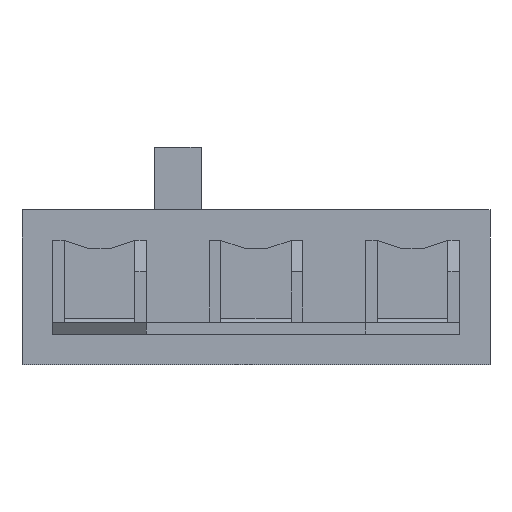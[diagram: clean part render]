
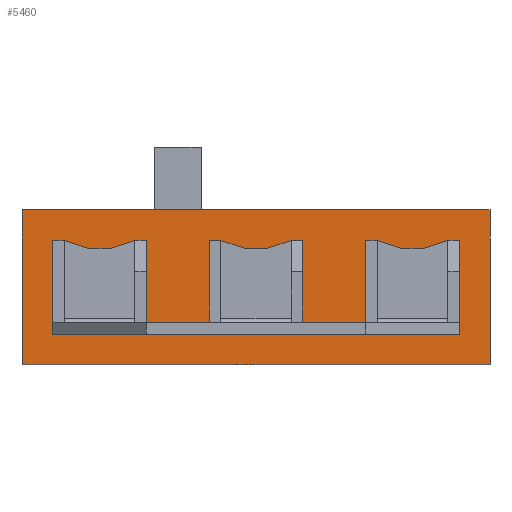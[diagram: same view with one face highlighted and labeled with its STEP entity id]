
A CAD part, front view. The second image highlights one B-rep face of the part: STEP entity #5460.
In plain terms, the highlighted planar face has unit normal (0, -1, 0).
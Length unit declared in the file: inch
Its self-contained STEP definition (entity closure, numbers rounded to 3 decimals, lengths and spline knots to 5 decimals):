
#1=DIRECTION('',(0.,0.,1.));
#2=VECTOR('',#1,0.099);
#3=CARTESIAN_POINT('',(-0.1495,-0.3,-0.0495));
#4=LINE('',#3,#2);
#5=DIRECTION('',(1.,0.,0.));
#6=VECTOR('',#5,0.299);
#7=CARTESIAN_POINT('',(-0.1495,-0.3,0.0495));
#8=LINE('',#7,#6);
#9=DIRECTION('',(0.,0.,-1.));
#10=VECTOR('',#9,0.099);
#11=CARTESIAN_POINT('',(0.1495,-0.3,0.0495));
#12=LINE('',#11,#10);
#13=DIRECTION('',(-1.,0.,0.));
#14=VECTOR('',#13,0.299);
#15=CARTESIAN_POINT('',(0.1495,-0.3,-0.0495));
#16=LINE('',#15,#14);
#17=DIRECTION('',(0.,0.,1.));
#18=VECTOR('',#17,0.04);
#19=CARTESIAN_POINT('',(-0.1225,-0.3,-0.0225));
#20=LINE('',#19,#18);
#21=DIRECTION('',(-1.,0.,0.));
#22=VECTOR('',#21,0.0075);
#23=CARTESIAN_POINT('',(-0.1225,-0.3,0.0175));
#24=LINE('',#23,#22);
#25=DIRECTION('',(0.,0.,-1.));
#26=VECTOR('',#25,0.0475);
#27=CARTESIAN_POINT('',(-0.13,-0.3,0.0175));
#28=LINE('',#27,#26);
#29=DIRECTION('',(1.,0.,0.));
#30=VECTOR('',#29,0.06);
#31=CARTESIAN_POINT('',(-0.13,-0.3,-0.03));
#32=LINE('',#31,#30);
#33=DIRECTION('',(0.,0.,1.));
#34=VECTOR('',#33,0.0475);
#35=CARTESIAN_POINT('',(-0.07,-0.3,-0.03));
#36=LINE('',#35,#34);
#37=DIRECTION('',(-1.,0.,0.));
#38=VECTOR('',#37,0.0075);
#39=CARTESIAN_POINT('',(-0.07,-0.3,0.0175));
#40=LINE('',#39,#38);
#41=DIRECTION('',(0.,0.,-1.));
#42=VECTOR('',#41,0.04);
#43=CARTESIAN_POINT('',(-0.0775,-0.3,0.0175));
#44=LINE('',#43,#42);
#45=DIRECTION('',(-1.,0.,0.));
#46=VECTOR('',#45,0.045);
#47=CARTESIAN_POINT('',(-0.0775,-0.3,-0.0225));
#48=LINE('',#47,#46);
#49=DIRECTION('',(0.,0.,1.));
#50=VECTOR('',#49,0.04);
#51=CARTESIAN_POINT('',(-0.0225,-0.3,-0.0225));
#52=LINE('',#51,#50);
#53=DIRECTION('',(-1.,0.,0.));
#54=VECTOR('',#53,0.0075);
#55=CARTESIAN_POINT('',(-0.0225,-0.3,0.0175));
#56=LINE('',#55,#54);
#57=DIRECTION('',(0.,0.,-1.));
#58=VECTOR('',#57,0.0475);
#59=CARTESIAN_POINT('',(-0.03,-0.3,0.0175));
#60=LINE('',#59,#58);
#61=DIRECTION('',(1.,0.,0.));
#62=VECTOR('',#61,0.06);
#63=CARTESIAN_POINT('',(-0.03,-0.3,-0.03));
#64=LINE('',#63,#62);
#65=DIRECTION('',(0.,0.,1.));
#66=VECTOR('',#65,0.0475);
#67=CARTESIAN_POINT('',(0.03,-0.3,-0.03));
#68=LINE('',#67,#66);
#69=DIRECTION('',(-1.,0.,0.));
#70=VECTOR('',#69,0.0075);
#71=CARTESIAN_POINT('',(0.03,-0.3,0.0175));
#72=LINE('',#71,#70);
#73=DIRECTION('',(0.,0.,-1.));
#74=VECTOR('',#73,0.04);
#75=CARTESIAN_POINT('',(0.0225,-0.3,0.0175));
#76=LINE('',#75,#74);
#77=DIRECTION('',(-1.,0.,0.));
#78=VECTOR('',#77,0.045);
#79=CARTESIAN_POINT('',(0.0225,-0.3,-0.0225));
#80=LINE('',#79,#78);
#81=DIRECTION('',(0.,0.,1.));
#82=VECTOR('',#81,0.04);
#83=CARTESIAN_POINT('',(0.0775,-0.3,-0.0225));
#84=LINE('',#83,#82);
#85=DIRECTION('',(-1.,0.,0.));
#86=VECTOR('',#85,0.0075);
#87=CARTESIAN_POINT('',(0.0775,-0.3,0.0175));
#88=LINE('',#87,#86);
#89=DIRECTION('',(0.,0.,-1.));
#90=VECTOR('',#89,0.0475);
#91=CARTESIAN_POINT('',(0.07,-0.3,0.0175));
#92=LINE('',#91,#90);
#93=DIRECTION('',(1.,0.,0.));
#94=VECTOR('',#93,0.06);
#95=CARTESIAN_POINT('',(0.07,-0.3,-0.03));
#96=LINE('',#95,#94);
#97=DIRECTION('',(0.,0.,1.));
#98=VECTOR('',#97,0.0475);
#99=CARTESIAN_POINT('',(0.13,-0.3,-0.03));
#100=LINE('',#99,#98);
#101=DIRECTION('',(-1.,0.,0.));
#102=VECTOR('',#101,0.0075);
#103=CARTESIAN_POINT('',(0.13,-0.3,0.0175));
#104=LINE('',#103,#102);
#105=DIRECTION('',(0.,0.,-1.));
#106=VECTOR('',#105,0.04);
#107=CARTESIAN_POINT('',(0.1225,-0.3,0.0175));
#108=LINE('',#107,#106);
#109=DIRECTION('',(-1.,0.,0.));
#110=VECTOR('',#109,0.045);
#111=CARTESIAN_POINT('',(0.1225,-0.3,-0.0225));
#112=LINE('',#111,#110);
#4089=CARTESIAN_POINT('',(-0.1495,-0.3,-0.0495));
#4090=CARTESIAN_POINT('',(-0.1495,-0.3,0.0495));
#4091=VERTEX_POINT('',#4089);
#4092=VERTEX_POINT('',#4090);
#4093=CARTESIAN_POINT('',(0.1495,-0.3,0.0495));
#4094=VERTEX_POINT('',#4093);
#4095=CARTESIAN_POINT('',(0.1495,-0.3,-0.0495));
#4096=VERTEX_POINT('',#4095);
#4153=CARTESIAN_POINT('',(-0.13,-0.3,-0.03));
#4154=CARTESIAN_POINT('',(-0.07,-0.3,-0.03));
#4155=VERTEX_POINT('',#4153);
#4156=VERTEX_POINT('',#4154);
#4157=CARTESIAN_POINT('',(-0.0775,-0.3,-0.0225));
#4158=CARTESIAN_POINT('',(-0.1225,-0.3,-0.0225));
#4159=VERTEX_POINT('',#4157);
#4160=VERTEX_POINT('',#4158);
#4253=CARTESIAN_POINT('',(-0.07,-0.3,0.0175));
#4254=VERTEX_POINT('',#4253);
#4255=CARTESIAN_POINT('',(-0.13,-0.3,0.0175));
#4256=VERTEX_POINT('',#4255);
#4293=CARTESIAN_POINT('',(-0.1225,-0.3,0.0175));
#4294=VERTEX_POINT('',#4293);
#4297=CARTESIAN_POINT('',(-0.0775,-0.3,0.0175));
#4298=VERTEX_POINT('',#4297);
#4307=CARTESIAN_POINT('',(0.0225,-0.3,-0.0225));
#4308=CARTESIAN_POINT('',(-0.0225,-0.3,-0.0225));
#4309=VERTEX_POINT('',#4307);
#4310=VERTEX_POINT('',#4308);
#4311=CARTESIAN_POINT('',(-0.03,-0.3,-0.03));
#4312=CARTESIAN_POINT('',(0.03,-0.3,-0.03));
#4313=VERTEX_POINT('',#4311);
#4314=VERTEX_POINT('',#4312);
#4323=CARTESIAN_POINT('',(0.1225,-0.3,-0.0225));
#4324=CARTESIAN_POINT('',(0.0775,-0.3,-0.0225));
#4325=VERTEX_POINT('',#4323);
#4326=VERTEX_POINT('',#4324);
#4327=CARTESIAN_POINT('',(0.07,-0.3,-0.03));
#4328=CARTESIAN_POINT('',(0.13,-0.3,-0.03));
#4329=VERTEX_POINT('',#4327);
#4330=VERTEX_POINT('',#4328);
#4369=CARTESIAN_POINT('',(0.03,-0.3,0.0175));
#4370=VERTEX_POINT('',#4369);
#4389=CARTESIAN_POINT('',(0.0225,-0.3,0.0175));
#4390=VERTEX_POINT('',#4389);
#4407=CARTESIAN_POINT('',(-0.0225,-0.3,0.0175));
#4408=VERTEX_POINT('',#4407);
#4449=CARTESIAN_POINT('',(-0.03,-0.3,0.0175));
#4450=VERTEX_POINT('',#4449);
#4507=CARTESIAN_POINT('',(0.13,-0.3,0.0175));
#4508=VERTEX_POINT('',#4507);
#4527=CARTESIAN_POINT('',(0.1225,-0.3,0.0175));
#4528=VERTEX_POINT('',#4527);
#4545=CARTESIAN_POINT('',(0.0775,-0.3,0.0175));
#4546=VERTEX_POINT('',#4545);
#4587=CARTESIAN_POINT('',(0.07,-0.3,0.0175));
#4588=VERTEX_POINT('',#4587);
#5391=CARTESIAN_POINT('',(0.,-0.3,0.));
#5392=DIRECTION('',(0.,1.,0.));
#5393=DIRECTION('',(1.,0.,0.));
#5394=AXIS2_PLACEMENT_3D('',#5391,#5392,#5393);
#5395=PLANE('',#5394);
#5397=ORIENTED_EDGE('',*,*,#5396,.T.);
#5399=ORIENTED_EDGE('',*,*,#5398,.T.);
#5401=ORIENTED_EDGE('',*,*,#5400,.T.);
#5403=ORIENTED_EDGE('',*,*,#5402,.T.);
#5404=EDGE_LOOP('',(#5397,#5399,#5401,#5403));
#5405=FACE_OUTER_BOUND('',#5404,.F.);
#5407=ORIENTED_EDGE('',*,*,#5406,.T.);
#5409=ORIENTED_EDGE('',*,*,#5408,.T.);
#5411=ORIENTED_EDGE('',*,*,#5410,.T.);
#5413=ORIENTED_EDGE('',*,*,#5412,.T.);
#5415=ORIENTED_EDGE('',*,*,#5414,.T.);
#5417=ORIENTED_EDGE('',*,*,#5416,.T.);
#5419=ORIENTED_EDGE('',*,*,#5418,.T.);
#5421=ORIENTED_EDGE('',*,*,#5420,.T.);
#5422=EDGE_LOOP('',(#5407,#5409,#5411,#5413,#5415,#5417,#5419,#5421));
#5423=FACE_BOUND('',#5422,.F.);
#5425=ORIENTED_EDGE('',*,*,#5424,.T.);
#5427=ORIENTED_EDGE('',*,*,#5426,.T.);
#5429=ORIENTED_EDGE('',*,*,#5428,.T.);
#5431=ORIENTED_EDGE('',*,*,#5430,.T.);
#5433=ORIENTED_EDGE('',*,*,#5432,.T.);
#5435=ORIENTED_EDGE('',*,*,#5434,.T.);
#5437=ORIENTED_EDGE('',*,*,#5436,.T.);
#5439=ORIENTED_EDGE('',*,*,#5438,.T.);
#5440=EDGE_LOOP('',(#5425,#5427,#5429,#5431,#5433,#5435,#5437,#5439));
#5441=FACE_BOUND('',#5440,.F.);
#5443=ORIENTED_EDGE('',*,*,#5442,.T.);
#5445=ORIENTED_EDGE('',*,*,#5444,.T.);
#5447=ORIENTED_EDGE('',*,*,#5446,.T.);
#5449=ORIENTED_EDGE('',*,*,#5448,.T.);
#5451=ORIENTED_EDGE('',*,*,#5450,.T.);
#5453=ORIENTED_EDGE('',*,*,#5452,.T.);
#5455=ORIENTED_EDGE('',*,*,#5454,.T.);
#5457=ORIENTED_EDGE('',*,*,#5456,.T.);
#5458=EDGE_LOOP('',(#5443,#5445,#5447,#5449,#5451,#5453,#5455,#5457));
#5459=FACE_BOUND('',#5458,.F.);
#5460=ADVANCED_FACE('',(#5405,#5423,#5441,#5459),#5395,.F.);
#5396=EDGE_CURVE('',#4091,#4092,#4,.T.);
#5398=EDGE_CURVE('',#4092,#4094,#8,.T.);
#5400=EDGE_CURVE('',#4094,#4096,#12,.T.);
#5402=EDGE_CURVE('',#4096,#4091,#16,.T.);
#5406=EDGE_CURVE('',#4160,#4294,#20,.T.);
#5408=EDGE_CURVE('',#4294,#4256,#24,.T.);
#5410=EDGE_CURVE('',#4256,#4155,#28,.T.);
#5412=EDGE_CURVE('',#4155,#4156,#32,.T.);
#5414=EDGE_CURVE('',#4156,#4254,#36,.T.);
#5416=EDGE_CURVE('',#4254,#4298,#40,.T.);
#5418=EDGE_CURVE('',#4298,#4159,#44,.T.);
#5420=EDGE_CURVE('',#4159,#4160,#48,.T.);
#5424=EDGE_CURVE('',#4310,#4408,#52,.T.);
#5426=EDGE_CURVE('',#4408,#4450,#56,.T.);
#5428=EDGE_CURVE('',#4450,#4313,#60,.T.);
#5430=EDGE_CURVE('',#4313,#4314,#64,.T.);
#5432=EDGE_CURVE('',#4314,#4370,#68,.T.);
#5434=EDGE_CURVE('',#4370,#4390,#72,.T.);
#5436=EDGE_CURVE('',#4390,#4309,#76,.T.);
#5438=EDGE_CURVE('',#4309,#4310,#80,.T.);
#5442=EDGE_CURVE('',#4326,#4546,#84,.T.);
#5444=EDGE_CURVE('',#4546,#4588,#88,.T.);
#5446=EDGE_CURVE('',#4588,#4329,#92,.T.);
#5448=EDGE_CURVE('',#4329,#4330,#96,.T.);
#5450=EDGE_CURVE('',#4330,#4508,#100,.T.);
#5452=EDGE_CURVE('',#4508,#4528,#104,.T.);
#5454=EDGE_CURVE('',#4528,#4325,#108,.T.);
#5456=EDGE_CURVE('',#4325,#4326,#112,.T.);
